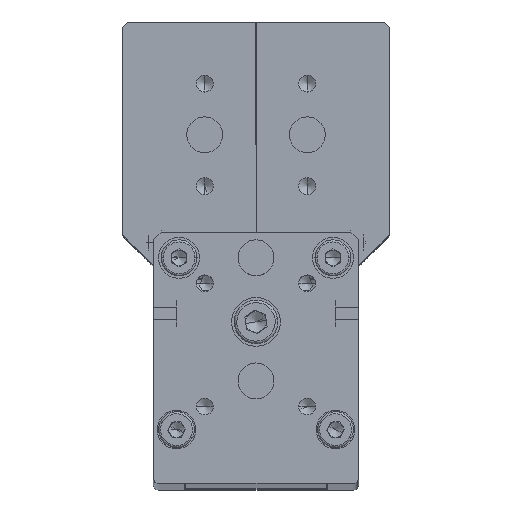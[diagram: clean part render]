
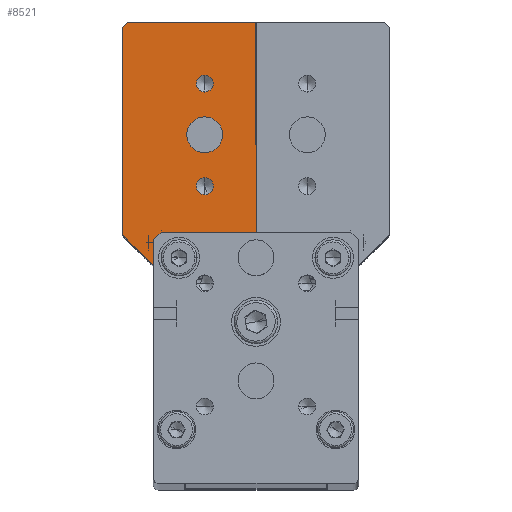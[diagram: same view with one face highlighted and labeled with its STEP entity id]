
A CAD part, top view. The second image highlights one B-rep face of the part: STEP entity #8521.
In plain terms, the highlighted planar face has unit normal (0, 0, 1).
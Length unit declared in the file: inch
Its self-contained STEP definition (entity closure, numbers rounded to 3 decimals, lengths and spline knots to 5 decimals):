
#126 = EDGE_CURVE ( 'NONE', #12666, #16547, #24483, .T. ) ;
#463 = AXIS2_PLACEMENT_3D ( 'NONE', #15026, #17842, #28646 ) ;
#607 = CARTESIAN_POINT ( 'NONE',  ( -3.5547, 1.31214, -0.31643 ) ) ;
#862 = ORIENTED_EDGE ( 'NONE', *, *, #20200, .T. ) ;
#954 = VECTOR ( 'NONE', #8815, 39.37008 ) ;
#1158 = AXIS2_PLACEMENT_3D ( 'NONE', #33468, #25545, #14468 ) ;
#1795 = EDGE_CURVE ( 'NONE', #23780, #21001, #29453, .T. ) ;
#1892 = LINE ( 'NONE', #32196, #34699 ) ;
#2875 = CARTESIAN_POINT ( 'NONE',  ( -3.9484, 2.66451, -0.31643 ) ) ;
#3451 = CARTESIAN_POINT ( 'NONE',  ( -4.3421, 1.21372, -0.31643 ) ) ;
#3520 = VERTEX_POINT ( 'NONE', #27511 ) ;
#3542 = EDGE_CURVE ( 'NONE', #26616, #14068, #24247, .T. ) ;
#3590 = DIRECTION ( 'NONE',  ( 0., 1., 0. ) ) ;
#3804 = EDGE_CURVE ( 'NONE', #21294, #9271, #5692, .T. ) ;
#4367 = CARTESIAN_POINT ( 'NONE',  ( -4.53895, 3.20191, -0.31643 ) ) ;
#4711 = EDGE_LOOP ( 'NONE', ( #34257, #35351 ) ) ;
#4971 = CARTESIAN_POINT ( 'NONE',  ( -3.9484, 2.72947, -0.31643 ) ) ;
#5692 = CIRCLE ( 'NONE', #23287, 0.06496 ) ;
#5761 = ORIENTED_EDGE ( 'NONE', *, *, #11102, .F. ) ;
#6190 = CARTESIAN_POINT ( 'NONE',  ( -4.3421, 1.33183, -0.31643 ) ) ;
#6622 = EDGE_LOOP ( 'NONE', ( #26682, #34146 ) ) ;
#6789 = LINE ( 'NONE', #607, #25744 ) ;
#6849 = DIRECTION ( 'NONE',  ( 0., 0., 1. ) ) ;
#7600 = DIRECTION ( 'NONE',  ( 0., 1., 0. ) ) ;
#7887 = CARTESIAN_POINT ( 'NONE',  ( -3.9484, 2.33577, -0.31643 ) ) ;
#8114 = CIRCLE ( 'NONE', #29940, 0.06496 ) ;
#8136 = VECTOR ( 'NONE', #33515, 39.37008 ) ;
#8441 = FACE_BOUND ( 'NONE', #6622, .T. ) ;
#8521 = ADVANCED_FACE ( 'NONE', ( #35142, #8441, #17555, #33415 ), #20054, .F. ) ;
#8815 = DIRECTION ( 'NONE',  ( 0., -1., 0. ) ) ;
#8892 = CARTESIAN_POINT ( 'NONE',  ( -4.57832, 3.20191, -0.31643 ) ) ;
#9040 = DIRECTION ( 'NONE',  ( -1., 0., 0. ) ) ;
#9126 = EDGE_CURVE ( 'NONE', #14068, #26616, #24846, .T. ) ;
#9271 = VERTEX_POINT ( 'NONE', #15969 ) ;
#9384 = DIRECTION ( 'NONE',  ( -1., 0., 0. ) ) ;
#9478 = EDGE_CURVE ( 'NONE', #21220, #31582, #12747, .T. ) ;
#9572 = CARTESIAN_POINT ( 'NONE',  ( -4.3421, 1.33183, -0.31643 ) ) ;
#9658 = AXIS2_PLACEMENT_3D ( 'NONE', #4971, #13519, #35658 ) ;
#10679 = DIRECTION ( 'NONE',  ( 0., 0., 1. ) ) ;
#10885 = CARTESIAN_POINT ( 'NONE',  ( -4.57832, 1.33183, -0.31643 ) ) ;
#10974 = AXIS2_PLACEMENT_3D ( 'NONE', #23344, #6849, #26121 ) ;
#11102 = EDGE_CURVE ( 'NONE', #25160, #23780, #18666, .T. ) ;
#12186 = DIRECTION ( 'NONE',  ( 0., 0., 1. ) ) ;
#12651 = DIRECTION ( 'NONE',  ( 0., 1., 0. ) ) ;
#12666 = VERTEX_POINT ( 'NONE', #31724 ) ;
#12747 = LINE ( 'NONE', #23053, #21832 ) ;
#13515 = CARTESIAN_POINT ( 'NONE',  ( -3.5547, 3.20191, -0.31643 ) ) ;
#13519 = DIRECTION ( 'NONE',  ( 0., 0., 1. ) ) ;
#14068 = VERTEX_POINT ( 'NONE', #35565 ) ;
#14259 = CARTESIAN_POINT ( 'NONE',  ( -4.57832, 3.16254, -0.31643 ) ) ;
#14468 = DIRECTION ( 'NONE',  ( 1., 0., 0. ) ) ;
#14986 = EDGE_CURVE ( 'NONE', #9271, #21294, #8114, .T. ) ;
#15026 = CARTESIAN_POINT ( 'NONE',  ( -3.9484, 2.72947, -0.31643 ) ) ;
#15300 = CARTESIAN_POINT ( 'NONE',  ( -4.3421, 1.21372, -0.31643 ) ) ;
#15440 = VECTOR ( 'NONE', #22934, 39.37008 ) ;
#15712 = AXIS2_PLACEMENT_3D ( 'NONE', #7887, #10679, #19155 ) ;
#15969 = CARTESIAN_POINT ( 'NONE',  ( -3.9484, 1.8771, -0.31643 ) ) ;
#16051 = VERTEX_POINT ( 'NONE', #25820 ) ;
#16547 = VERTEX_POINT ( 'NONE', #34746 ) ;
#17190 = VECTOR ( 'NONE', #27518, 39.37008 ) ;
#17555 = FACE_BOUND ( 'NONE', #31515, .T. ) ;
#17842 = DIRECTION ( 'NONE',  ( 0., 0., 1. ) ) ;
#18192 = ORIENTED_EDGE ( 'NONE', *, *, #9478, .T. ) ;
#18666 = LINE ( 'NONE', #27956, #954 ) ;
#18976 = LINE ( 'NONE', #14259, #8136 ) ;
#19155 = DIRECTION ( 'NONE',  ( 0., 1., 0. ) ) ;
#19657 = EDGE_CURVE ( 'NONE', #3520, #16051, #22844, .T. ) ;
#19763 = CARTESIAN_POINT ( 'NONE',  ( -3.5547, 1.31214, -0.31643 ) ) ;
#20012 = EDGE_CURVE ( 'NONE', #26344, #16547, #18976, .T. ) ;
#20054 = PLANE ( 'NONE',  #1158 ) ;
#20136 = CARTESIAN_POINT ( 'NONE',  ( -3.9484, 2.00703, -0.31643 ) ) ;
#20200 = EDGE_CURVE ( 'NONE', #12666, #35562, #27977, .T. ) ;
#20551 = CARTESIAN_POINT ( 'NONE',  ( -3.96808, 1.31214, -0.31643 ) ) ;
#20914 = LINE ( 'NONE', #8892, #27338 ) ;
#21001 = VERTEX_POINT ( 'NONE', #15300 ) ;
#21220 = VERTEX_POINT ( 'NONE', #19763 ) ;
#21294 = VERTEX_POINT ( 'NONE', #20136 ) ;
#21347 = ORIENTED_EDGE ( 'NONE', *, *, #29320, .F. ) ;
#21832 = VECTOR ( 'NONE', #7600, 39.37008 ) ;
#22093 = EDGE_CURVE ( 'NONE', #21001, #35562, #1892, .T. ) ;
#22449 = ORIENTED_EDGE ( 'NONE', *, *, #22093, .F. ) ;
#22844 = CIRCLE ( 'NONE', #10974, 0.1378 ) ;
#22934 = DIRECTION ( 'NONE',  ( 0.707, -0.707, 0. ) ) ;
#23053 = CARTESIAN_POINT ( 'NONE',  ( -3.5547, 1.33183, -0.31643 ) ) ;
#23287 = AXIS2_PLACEMENT_3D ( 'NONE', #28699, #12186, #3590 ) ;
#23344 = CARTESIAN_POINT ( 'NONE',  ( -3.9484, 2.33577, -0.31643 ) ) ;
#23756 = ORIENTED_EDGE ( 'NONE', *, *, #9126, .F. ) ;
#23780 = VERTEX_POINT ( 'NONE', #27427 ) ;
#24247 = CIRCLE ( 'NONE', #9658, 0.06496 ) ;
#24483 = LINE ( 'NONE', #10885, #17190 ) ;
#24846 = CIRCLE ( 'NONE', #463, 0.06496 ) ;
#25021 = EDGE_LOOP ( 'NONE', ( #29748, #5761, #21347, #18192, #25905, #25556, #27342, #862, #22449 ) ) ;
#25160 = VERTEX_POINT ( 'NONE', #20551 ) ;
#25545 = DIRECTION ( 'NONE',  ( 0., 0., -1. ) ) ;
#25556 = ORIENTED_EDGE ( 'NONE', *, *, #20012, .T. ) ;
#25744 = VECTOR ( 'NONE', #9040, 39.37008 ) ;
#25820 = CARTESIAN_POINT ( 'NONE',  ( -3.9484, 2.19797, -0.31643 ) ) ;
#25905 = ORIENTED_EDGE ( 'NONE', *, *, #30722, .T. ) ;
#26121 = DIRECTION ( 'NONE',  ( 0., 1., 0. ) ) ;
#26344 = VERTEX_POINT ( 'NONE', #4367 ) ;
#26581 = DIRECTION ( 'NONE',  ( 0., 1., 0. ) ) ;
#26616 = VERTEX_POINT ( 'NONE', #2875 ) ;
#26682 = ORIENTED_EDGE ( 'NONE', *, *, #3804, .F. ) ;
#27338 = VECTOR ( 'NONE', #28186, 39.37008 ) ;
#27342 = ORIENTED_EDGE ( 'NONE', *, *, #126, .F. ) ;
#27427 = CARTESIAN_POINT ( 'NONE',  ( -3.96808, 1.21372, -0.31643 ) ) ;
#27511 = CARTESIAN_POINT ( 'NONE',  ( -3.9484, 2.47356, -0.31643 ) ) ;
#27518 = DIRECTION ( 'NONE',  ( 0., 1., 0. ) ) ;
#27956 = CARTESIAN_POINT ( 'NONE',  ( -3.96808, 1.21372, -0.31643 ) ) ;
#27977 = LINE ( 'NONE', #6190, #15440 ) ;
#28186 = DIRECTION ( 'NONE',  ( -1., 0., 0. ) ) ;
#28586 = CIRCLE ( 'NONE', #15712, 0.1378 ) ;
#28646 = DIRECTION ( 'NONE',  ( 0., 1., 0. ) ) ;
#28699 = CARTESIAN_POINT ( 'NONE',  ( -3.9484, 1.94206, -0.31643 ) ) ;
#28916 = CARTESIAN_POINT ( 'NONE',  ( -3.9484, 1.94206, -0.31643 ) ) ;
#28936 = ORIENTED_EDGE ( 'NONE', *, *, #3542, .F. ) ;
#29320 = EDGE_CURVE ( 'NONE', #21220, #25160, #6789, .T. ) ;
#29453 = LINE ( 'NONE', #3451, #31622 ) ;
#29748 = ORIENTED_EDGE ( 'NONE', *, *, #1795, .F. ) ;
#29940 = AXIS2_PLACEMENT_3D ( 'NONE', #28916, #34678, #12651 ) ;
#30722 = EDGE_CURVE ( 'NONE', #31582, #26344, #20914, .T. ) ;
#31150 = EDGE_CURVE ( 'NONE', #16051, #3520, #28586, .T. ) ;
#31515 = EDGE_LOOP ( 'NONE', ( #23756, #28936 ) ) ;
#31582 = VERTEX_POINT ( 'NONE', #13515 ) ;
#31622 = VECTOR ( 'NONE', #9384, 39.37008 ) ;
#31724 = CARTESIAN_POINT ( 'NONE',  ( -4.57832, 1.56805, -0.31643 ) ) ;
#32196 = CARTESIAN_POINT ( 'NONE',  ( -4.3421, 1.31214, -0.31643 ) ) ;
#33415 = FACE_OUTER_BOUND ( 'NONE', #25021, .T. ) ;
#33468 = CARTESIAN_POINT ( 'NONE',  ( -4.57832, 1.33183, -0.31643 ) ) ;
#33515 = DIRECTION ( 'NONE',  ( -0.707, -0.707, 0. ) ) ;
#34146 = ORIENTED_EDGE ( 'NONE', *, *, #14986, .F. ) ;
#34257 = ORIENTED_EDGE ( 'NONE', *, *, #19657, .F. ) ;
#34678 = DIRECTION ( 'NONE',  ( 0., 0., 1. ) ) ;
#34699 = VECTOR ( 'NONE', #26581, 39.37008 ) ;
#34746 = CARTESIAN_POINT ( 'NONE',  ( -4.57832, 3.16254, -0.31643 ) ) ;
#35142 = FACE_BOUND ( 'NONE', #4711, .T. ) ;
#35351 = ORIENTED_EDGE ( 'NONE', *, *, #31150, .F. ) ;
#35562 = VERTEX_POINT ( 'NONE', #9572 ) ;
#35565 = CARTESIAN_POINT ( 'NONE',  ( -3.9484, 2.79443, -0.31643 ) ) ;
#35658 = DIRECTION ( 'NONE',  ( 0., 1., 0. ) ) ;
